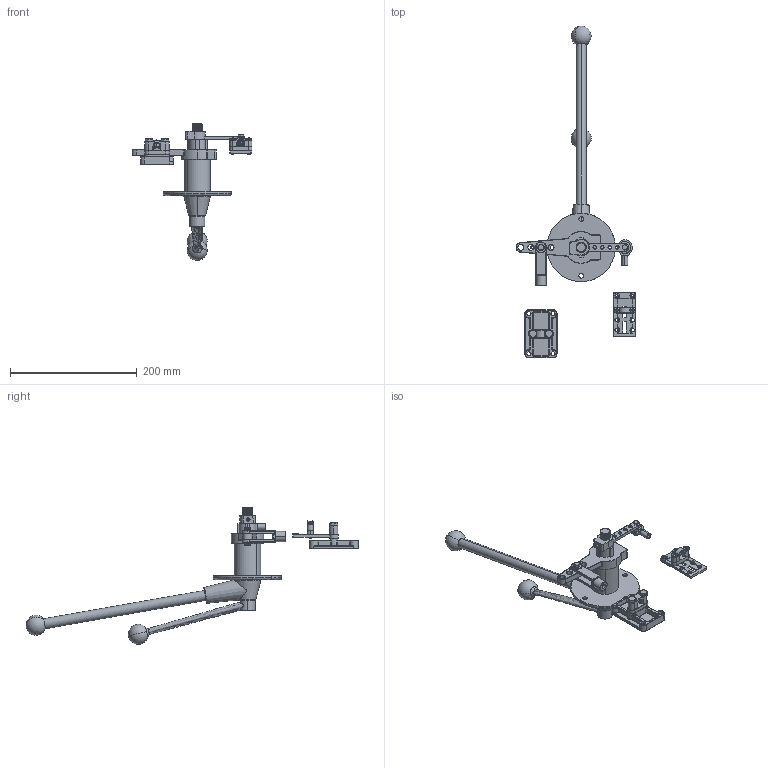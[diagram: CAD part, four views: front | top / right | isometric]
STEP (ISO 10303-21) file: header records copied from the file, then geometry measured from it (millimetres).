
FILE_DESCRIPTION (( 'STEP AP214' ), '1' );
FILE_NAME ('2031.STEP', '2019-09-26T22:02:37', ( '' ), ( '' ), 'SwSTEP 2.0', 'SolidWorks 2019', '' );
FILE_SCHEMA (( 'AUTOMOTIVE_DESIGN' ));
Length unit declared in the file: inch
Products named in the file (1): 2031
Bounding box: 189.36 x 524.55 x 216.04 mm (x, y, z)
Surface area: 126914.3 mm2 (no closed solid volume)
Topology: 0 solids, 33 shells, 781 faces, 2655 edges, 1797 vertices
Faces by surface type: cylinder 286, plane 256, torus 110, cone 81, bspline 40, sphere 8
Entity records: 45043 total; most frequent: CARTESIAN_POINT 12737, DIRECTION 4746, ORIENTED_EDGE 4246, EDGE_CURVE 2627, AXIS2_PLACEMENT_3D 1849, VERTEX_POINT 1788, CIRCLE 1107, LINE 1048
